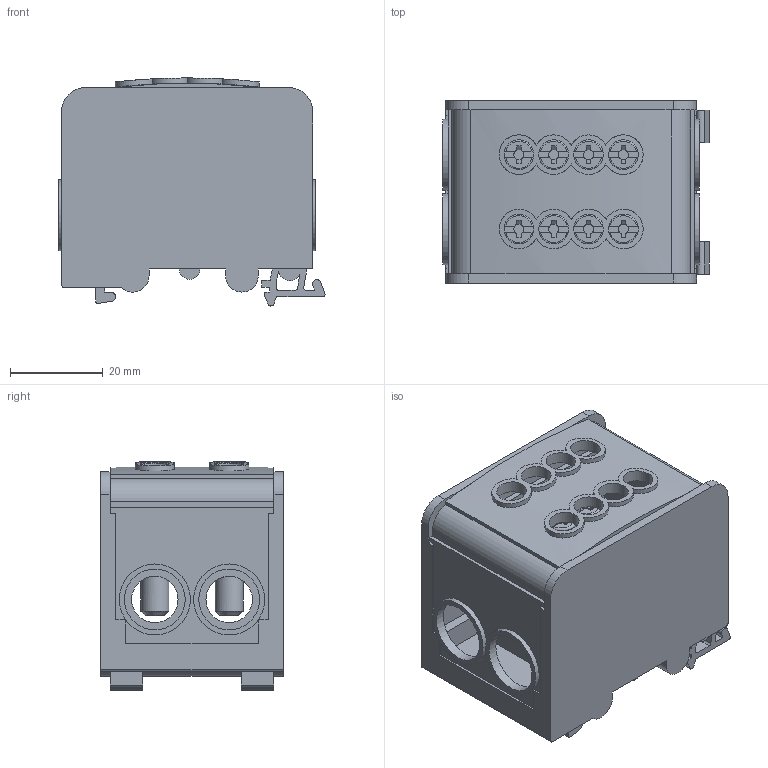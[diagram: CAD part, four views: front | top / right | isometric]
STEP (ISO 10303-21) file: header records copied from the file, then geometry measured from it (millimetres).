
FILE_DESCRIPTION(/* description */ ('Unknown'),/* implementation_level */ '2;1');
FILE_NAME(/* name */ 'DTB 2x35',/* time_stamp */ '2024-05-13T08:27:48+02:00',/* author */ ('Unknown'),/* organization */ ('Unknown'),/* preprocessor_version */ 'ST-DEVELOPER v18.104',/* originating_system */ 'Solid Edge',/* authorisation */ 'Unknown');
FILE_SCHEMA (('AUTOMOTIVE_DESIGN {1 0 10303 214 3 1 1}'));
Length unit declared in the file: millimetre
Products named in the file (1): DTB 2x35_sestava
Bounding box: 57.3 x 39.3 x 49.1 mm (x, y, z)
Volume: 42801.3 mm3; surface area: 27667.8 mm2
Topology: 1 solids, 1 shells, 375 faces, 1035 edges, 688 vertices
Faces by surface type: plane 249, cylinder 102, torus 16, cone 8
Full cylindrical faces by diameter (mm): 6 x8, 6.4 x8, 6.8 x8, 10 x2, 13.1 x4, 15.3 x4
Entity records: 14710 total; most frequent: CARTESIAN_POINT 2605, ORIENTED_EDGE 1958, DIRECTION 1891, EDGE_CURVE 979, VERTEX_POINT 674, LINE 659, VECTOR 659, AXIS2_PLACEMENT_3D 616
